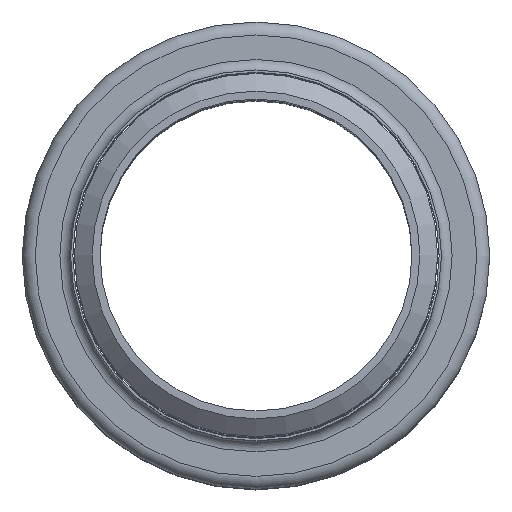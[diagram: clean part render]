
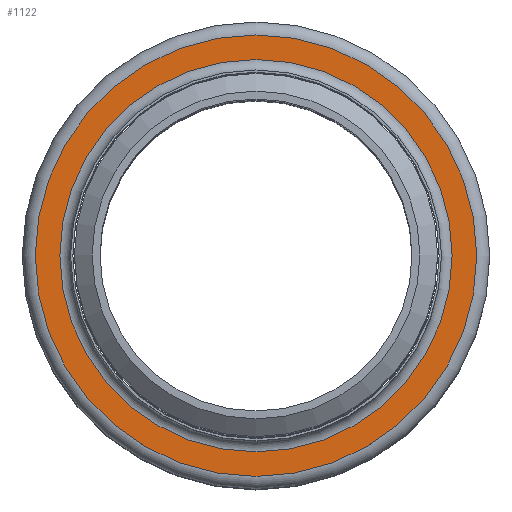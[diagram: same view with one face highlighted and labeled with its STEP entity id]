
A CAD part, top view. The second image highlights one B-rep face of the part: STEP entity #1122.
In plain terms, the highlighted planar face has unit normal (0, 0, 1).
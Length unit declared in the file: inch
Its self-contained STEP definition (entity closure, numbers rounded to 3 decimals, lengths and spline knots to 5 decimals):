
#84=FACE_BOUND('',#324,.T.);
#122=PLANE('',#1338);
#207=FACE_OUTER_BOUND('',#323,.T.);
#323=EDGE_LOOP('',(#933));
#324=EDGE_LOOP('',(#934));
#465=CIRCLE('',#1337,1.55275);
#466=CIRCLE('',#1339,1.74725);
#558=VERTEX_POINT('',#2051);
#559=VERTEX_POINT('',#2055);
#685=EDGE_CURVE('',#558,#558,#465,.T.);
#686=EDGE_CURVE('',#559,#559,#466,.T.);
#933=ORIENTED_EDGE('',*,*,#686,.F.);
#934=ORIENTED_EDGE('',*,*,#685,.T.);
#1122=ADVANCED_FACE('',(#207,#84),#122,.T.);
#1337=AXIS2_PLACEMENT_3D('',#2053,#1735,#1736);
#1338=AXIS2_PLACEMENT_3D('',#2054,#1737,#1738);
#1339=AXIS2_PLACEMENT_3D('',#2056,#1739,#1740);
#1735=DIRECTION('center_axis',(0.,0.,
-1.));
#1736=DIRECTION('ref_axis',(1.,0.,0.));
#1737=DIRECTION('center_axis',(0.,0.,
1.));
#1738=DIRECTION('ref_axis',(1.,0.,0.));
#1739=DIRECTION('center_axis',(0.,0.,
-1.));
#1740=DIRECTION('ref_axis',(1.,0.,0.));
#2051=CARTESIAN_POINT('',(1.55275,0.,-1.58475));
#2053=CARTESIAN_POINT('Origin',(0.,0.,
-1.58475));
#2054=CARTESIAN_POINT('Origin',(0.,1.74725,-1.58475));
#2055=CARTESIAN_POINT('',(1.74725,0.,-1.58475));
#2056=CARTESIAN_POINT('Origin',(0.,0.,
-1.58475));
